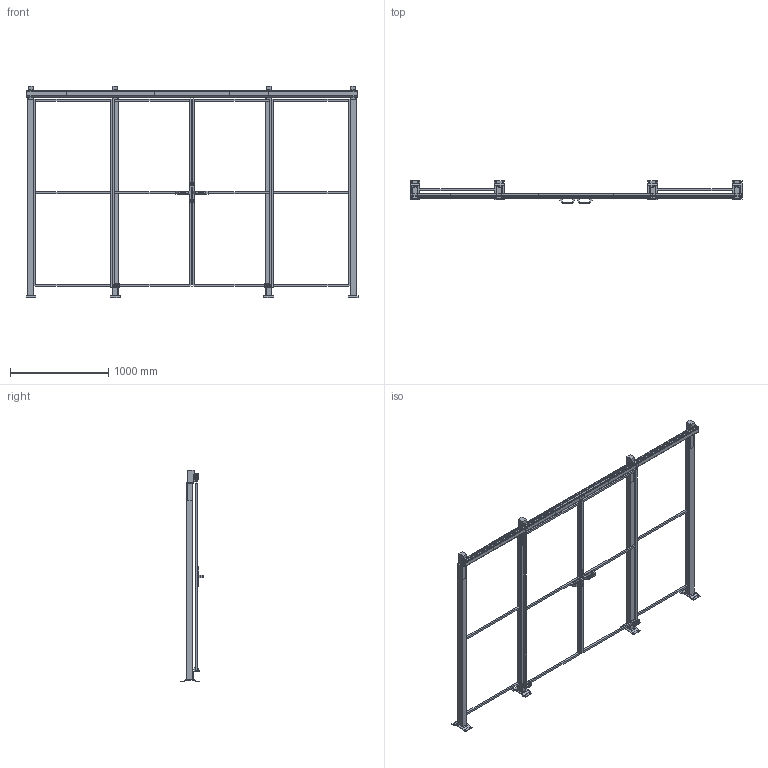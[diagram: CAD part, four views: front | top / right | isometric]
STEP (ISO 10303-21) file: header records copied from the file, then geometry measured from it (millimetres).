
FILE_DESCRIPTION(/* description */ (''),/* implementation_level */ '2;1');
FILE_NAME(/* name */ 'C:\SafeGuarding\ELABORATI\HOR§VED_2025-03-25-14-28-38.stp',/* time_stamp */ '2025-03-25T14:28:44+01:00',/* author */ ('admin'),/* organization */ (''),/* preprocessor_version */ 'ST-DEVELOPER v18.1',/* originating_system */ 'AutoCAD Mechanical',/* authorisation */ '');
FILE_SCHEMA (('AUTOMOTIVE_DESIGN { 1 0 10303 214 3 1 1 }'));
Length unit declared in the file: millimetre
Products named in the file (3): Product; R_VFPA.REPE20.08001900; P_VFMA.V360SDU.2020
Assembly tree (8 placements, depth 2):
  Product
    R_VFPA.REPE20.08001900  x4
    P_VFMA.V360SDU.2020  x4
Bounding box: 3380 x 235.9 x 2154 mm (x, y, z)
Volume: 49090362.8 mm3; surface area: 6635687.2 mm2
Topology: 55 solids, 77 shells, 592 faces, 1968 edges, 2032 vertices
Faces by surface type: plane 542, cylinder 50
Full cylindrical faces by diameter (mm): 11 x16, 12 x4, 14 x4, 15 x8, 40 x8
Entity records: 14694 total; most frequent: CARTESIAN_POINT 3182, DIRECTION 2183, ORIENTED_EDGE 2148, EDGE_CURVE 1172, LINE 1001, VECTOR 1001, VERTEX_POINT 864, AXIS2_PLACEMENT_3D 591
